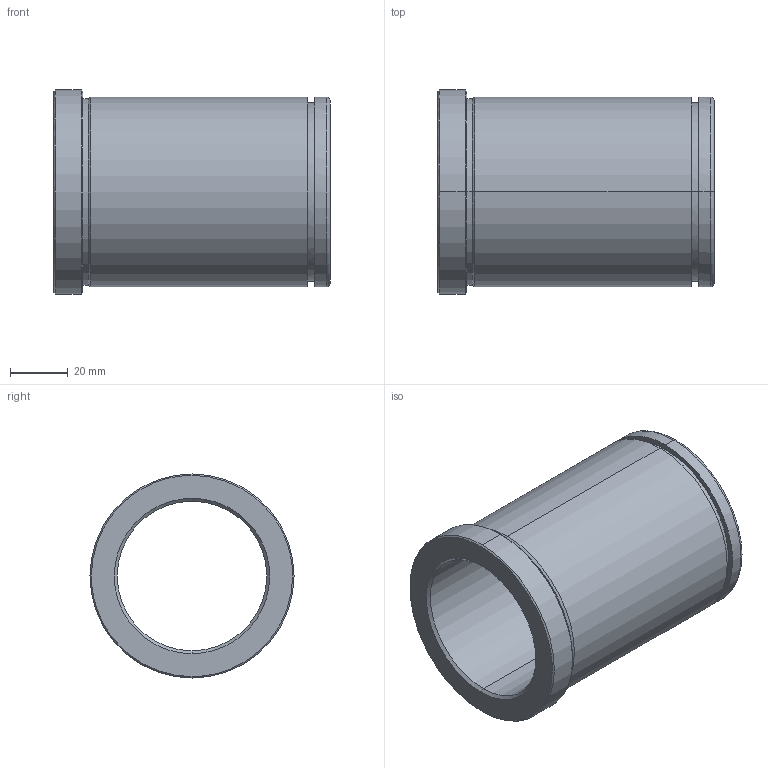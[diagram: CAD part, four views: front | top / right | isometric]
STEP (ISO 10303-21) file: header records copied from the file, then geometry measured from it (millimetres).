
FILE_DESCRIPTION(('CATIA V5 STEP Exchange'),'2;1');
FILE_NAME('C:\Users\Utente\Desktop\IO LAVORO\3D X SITO CF\X SITO\PLASTICA\553\553-52X96.stp','2021-06-08T18:02:55+00:00',('none'),('none'),'CATIA Version 5 Release 20 GA (IN-10)','CATIA V5 STEP AP203','none');
FILE_SCHEMA(('CONFIG_CONTROL_DESIGN'));
Length unit declared in the file: millimetre
Products named in the file (1): 553-52X96
Bounding box: 96 x 71 x 71 mm (x, y, z)
Volume: 128196.3 mm3; surface area: 39804.1 mm2
Topology: 1 solids, 1 shells, 29 faces, 92 edges, 68 vertices
Faces by surface type: cylinder 12, cone 8, plane 5, torus 4
Entity records: 1228 total; most frequent: CARTESIAN_POINT 374, ORIENTED_EDGE 184, DIRECTION 136, EDGE_CURVE 92, AXIS2_PLACEMENT_3D 88, VERTEX_POINT 68, CIRCLE 58, EDGE_LOOP 34
